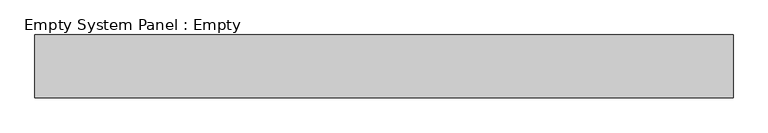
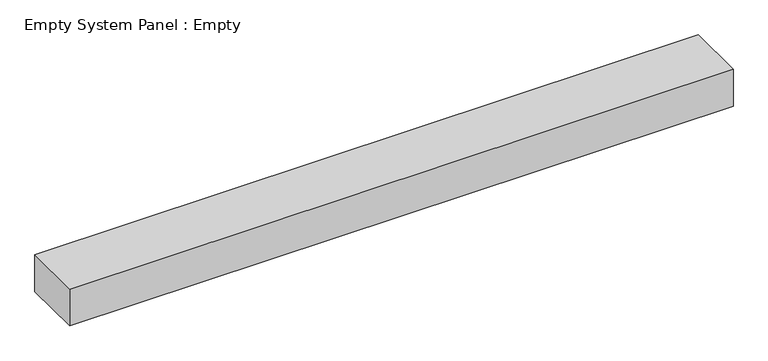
"""IFC4 building model written with IfcOpenShell, lengths in millimetres: plate geometry, Empty System Panel : Empty."""

from ifc_helpers import new_model, si_unit, origin, origin_with_axes, place, context, project, spatial, polyline, outline, extrude, source, transform, mapped, element, save


def empty_system_panel_empty_9ab0a9e8(model_context):
    return source(origin(), model_context, "Body", "SweptSolid", [
        extrude(outline(polyline([(553.5714286, -50.0), (-553.5714286, -50.0), (-553.5714286, 50.0), (553.5714286, 50.0), (553.5714286, -50.0)])), origin_with_axes(), (0.0, 0.0, 1.0), 65.0),
    ])


if __name__ == "__main__":
    model = new_model("IFC4")
    model_context = context("Model", 3, world=origin())
    ifc_project = project(units=[si_unit("LENGTHUNIT", "METRE", prefix="MILLI")], contexts=[model_context])
    site = spatial("IfcSite", under=ifc_project)
    building = spatial("IfcBuilding", under=site)
    placement = place(None, origin())
    empty_system_panel_empty_shape = empty_system_panel_empty_9ab0a9e8(model_context)
    element("IfcPlate", 1, ObjectType="Empty System Panel : Empty", at=placement, inside=building, context=model_context, shape_type="MappedRepresentation", body=[
        mapped(empty_system_panel_empty_shape, transform((0.0, 0.0, 0.0), x_axis=(1.0, 0.0, 0.0), y_axis=(0.0, 1.0, 0.0), z_axis=(0.0, 0.0, 1.0))),
    ])
    save(model, "model.ifc")
